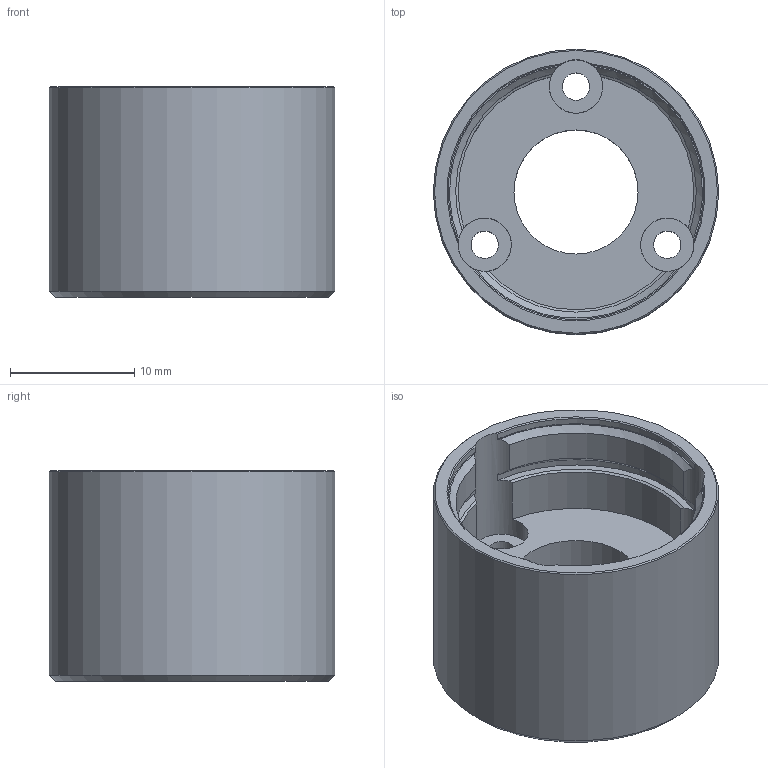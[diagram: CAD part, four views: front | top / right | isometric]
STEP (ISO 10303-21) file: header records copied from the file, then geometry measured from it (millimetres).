
FILE_DESCRIPTION(/* description */ (''),/* implementation_level */ '2;1');
FILE_NAME(/* name */ '23-1_flange_b.stp',/* time_stamp */ '2016-09-06T15:12:16+02:00',/* author */ ('DR. FRITZ FAULHABER GmbH & Co. KG'),/* organization */ ('DR. FRITZ FAULHABER GmbH & Co. KG'),/* preprocessor_version */ 'ST-DEVELOPER v16',/* originating_system */ 'SIEMENS PLM Software NX 10.0',/* authorisation */ '');
FILE_SCHEMA (('AUTOMOTIVE_DESIGN { 1 0 10303 214 3 1 1 1 }'));
Length unit declared in the file: millimetre
Products named in the file (1): F0200011861_G
Bounding box: 23 x 23 x 17 mm (x, y, z)
Volume: 3664 mm3; surface area: 2889.9 mm2
Topology: 1 solids, 1 shells, 50 faces, 193 edges, 193 vertices
Faces by surface type: cylinder 20, plane 15, cone 15
Full cylindrical faces by diameter (mm): 2.2 x3, 4.3 x3, 10 x1, 23 x1
Entity records: 2165 total; most frequent: CARTESIAN_POINT 468, DIRECTION 350, ORIENTED_EDGE 248, AXIS2_PLACEMENT_3D 163, EDGE_CURVE 124, CIRCLE 112, VERTEX_POINT 88, EDGE_LOOP 70
